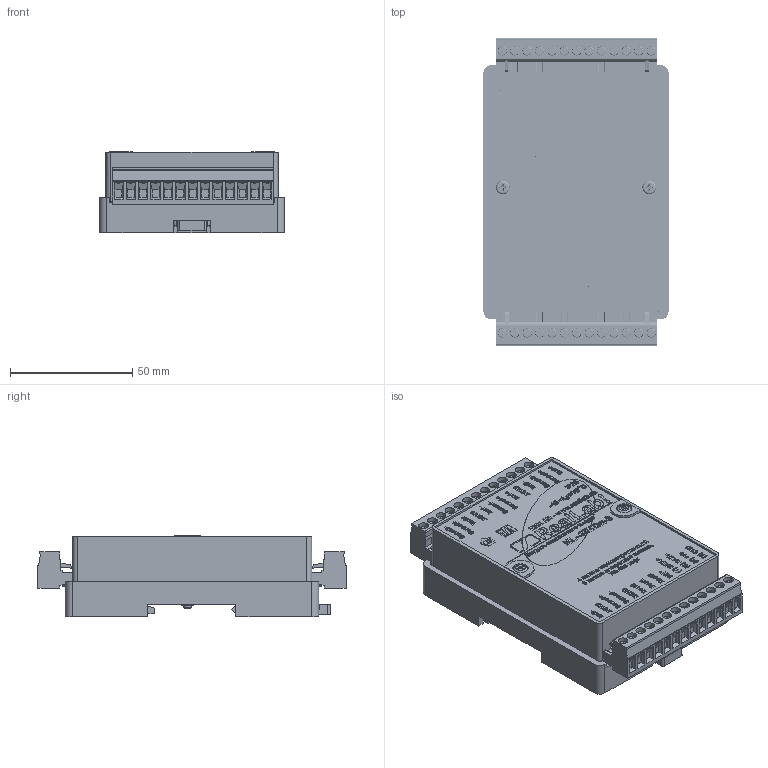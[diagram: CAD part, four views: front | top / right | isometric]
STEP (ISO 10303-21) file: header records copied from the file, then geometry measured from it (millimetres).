
FILE_DESCRIPTION(('STEP AP214'), '1');
FILE_NAME('NL-4RTDn-3', '', ('UNSPECIFIED'), ('UNSPECIFIED'), 'C3D Converter', 'C3D Toolkit', '');
FILE_SCHEMA(('AUTOMOTIVE_DESIGN { 1 0 10303 214 3 1 1}'));
Length unit declared in the file: millimetre
Products named in the file (1): NL-4RTDn-3
Bounding box: 75.8 x 126.21 x 33.5 mm (x, y, z)
Volume: 85373.2 mm3; surface area: 90002.7 mm2
Topology: 8 solids, 8 shells, 7420 faces, 20251 edges, 13381 vertices
Faces by surface type: plane 3525, extrusion 3206, cylinder 502, torus 118, cone 68, bspline 1
Full cylindrical faces by diameter (mm): 1.4 x26, 2.5 x4, 3 x30, 3.38 x2, 3.6 x4, 3.95 x26, 4 x2, 5.6 x2, 6.3 x2, 6.4 x2, 8 x2
Entity records: 324786 total; most frequent: CARTESIAN_POINT 90906, ORIENTED_EDGE 40132, DIRECTION 25931, EDGE_CURVE 20066, VECTOR 14971, VERTEX_POINT 13379, LINE 11765, B_SPLINE_CURVE_WITH_KNOTS 10207
